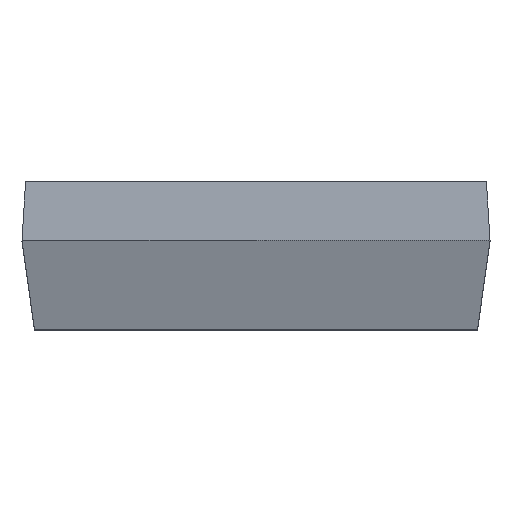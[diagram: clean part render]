
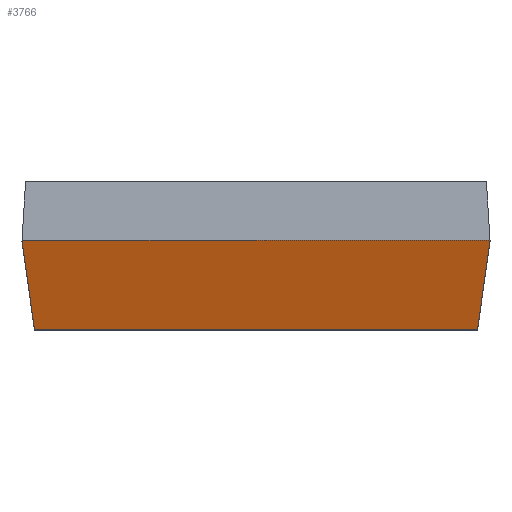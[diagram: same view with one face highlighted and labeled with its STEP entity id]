
A CAD part, top view. The second image highlights one B-rep face of the part: STEP entity #3766.
In plain terms, the highlighted planar face has unit normal (0, -0.301, 0.954) as drawn and (0, 0.301, -0.954) by its records, which use the part's own axes.
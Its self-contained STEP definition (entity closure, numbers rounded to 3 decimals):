
#71 = LINE ( 'NONE', #5454, #2113 ) ;
#201 = FACE_OUTER_BOUND ( 'NONE', #3433, .T. ) ;
#506 = DIRECTION ( 'NONE',  ( -1., 0., 0. ) ) ;
#582 = VERTEX_POINT ( 'NONE', #2559 ) ;
#741 = ORIENTED_EDGE ( 'NONE', *, *, #2560, .F. ) ;
#783 = EDGE_CURVE ( 'NONE', #6877, #582, #3074, .T. ) ;
#933 = ORIENTED_EDGE ( 'NONE', *, *, #783, .F. ) ;
#938 = LINE ( 'NONE', #3118, #5627 ) ;
#1240 = EDGE_CURVE ( 'NONE', #6877, #4099, #938, .T. ) ;
#2113 = VECTOR ( 'NONE', #4050, 1000. ) ;
#2139 = AXIS2_PLACEMENT_3D ( 'NONE', #2382, #2878, #3907 ) ;
#2340 = CARTESIAN_POINT ( 'NONE',  ( -7.97, 0., -10.475 ) ) ;
#2382 = CARTESIAN_POINT ( 'NONE',  ( 0., 3.02, -9.523 ) ) ;
#2559 = CARTESIAN_POINT ( 'NONE',  ( 7.546, 3.02, -9.523 ) ) ;
#2560 = EDGE_CURVE ( 'NONE', #582, #3328, #71, .T. ) ;
#2878 = DIRECTION ( 'NONE',  ( 0., -0.301, 0.954 ) ) ;
#3074 = LINE ( 'NONE', #4719, #5086 ) ;
#3118 = CARTESIAN_POINT ( 'NONE',  ( -7.97, 0., -10.475 ) ) ;
#3328 = VERTEX_POINT ( 'NONE', #5323 ) ;
#3433 = EDGE_LOOP ( 'NONE', ( #933, #4602, #6352, #741 ) ) ;
#3652 = VECTOR ( 'NONE', #5807, 1000. ) ;
#3766 = ADVANCED_FACE ( 'NONE', ( #201 ), #5664, .F. ) ;
#3907 = DIRECTION ( 'NONE',  ( -1., 0., 0. ) ) ;
#4050 = DIRECTION ( 'NONE',  ( -1., 0., 0. ) ) ;
#4099 = VERTEX_POINT ( 'NONE', #2340 ) ;
#4159 = LINE ( 'NONE', #6346, #3652 ) ;
#4602 = ORIENTED_EDGE ( 'NONE', *, *, #1240, .T. ) ;
#4719 = CARTESIAN_POINT ( 'NONE',  ( 7.169, 5.703, -8.677 ) ) ;
#5086 = VECTOR ( 'NONE', #6362, 1000. ) ;
#5323 = CARTESIAN_POINT ( 'NONE',  ( -7.546, 3.02, -9.523 ) ) ;
#5454 = CARTESIAN_POINT ( 'NONE',  ( 0., 3.02, -9.523 ) ) ;
#5627 = VECTOR ( 'NONE', #506, 1000. ) ;
#5664 = PLANE ( 'NONE',  #2139 ) ;
#5807 = DIRECTION ( 'NONE',  ( -0.133, -0.945, -0.298 ) ) ;
#6239 = CARTESIAN_POINT ( 'NONE',  ( 7.97, 0., -10.475 ) ) ;
#6346 = CARTESIAN_POINT ( 'NONE',  ( -7.169, 5.703, -8.677 ) ) ;
#6352 = ORIENTED_EDGE ( 'NONE', *, *, #6672, .F. ) ;
#6362 = DIRECTION ( 'NONE',  ( -0.133, 0.945, 0.298 ) ) ;
#6672 = EDGE_CURVE ( 'NONE', #3328, #4099, #4159, .T. ) ;
#6877 = VERTEX_POINT ( 'NONE', #6239 ) ;
